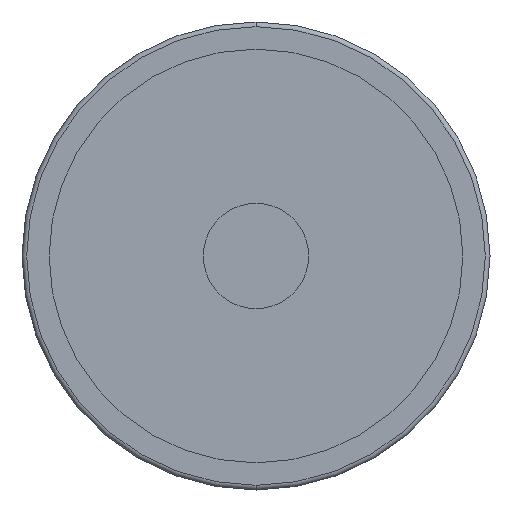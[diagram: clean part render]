
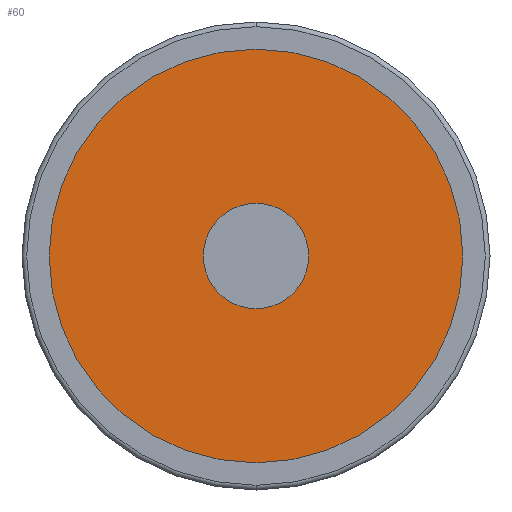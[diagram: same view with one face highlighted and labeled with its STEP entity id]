
A CAD part, front view. The second image highlights one B-rep face of the part: STEP entity #60.
In plain terms, the highlighted planar face has unit normal (0, -1, 0).
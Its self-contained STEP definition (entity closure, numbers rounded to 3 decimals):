
#44 = CIRCLE ( 'NONE', #573, 44.3 ) ;
#60 = ADVANCED_FACE ( 'NONE', ( #88, #1648 ), #1846, .T. ) ;
#88 = FACE_OUTER_BOUND ( 'NONE', #131, .T. ) ;
#118 = ORIENTED_EDGE ( 'NONE', *, *, #261, .F. ) ;
#131 = EDGE_LOOP ( 'NONE', ( #1121, #1259 ) ) ;
#244 = CARTESIAN_POINT ( 'NONE',  ( 0., 4.5, 0. ) ) ;
#249 = DIRECTION ( 'NONE',  ( 1., 0., 0. ) ) ;
#261 = EDGE_CURVE ( 'NONE', #2188, #1940, #412, .T. ) ;
#270 = DIRECTION ( 'NONE',  ( 1., 0., 0. ) ) ;
#346 = AXIS2_PLACEMENT_3D ( 'NONE', #1922, #1333, #547 ) ;
#412 = CIRCLE ( 'NONE', #691, 10.25 ) ;
#421 = ORIENTED_EDGE ( 'NONE', *, *, #2270, .F. ) ;
#465 = CIRCLE ( 'NONE', #346, 44.3 ) ;
#547 = DIRECTION ( 'NONE',  ( 1., 0., 0. ) ) ;
#573 = AXIS2_PLACEMENT_3D ( 'NONE', #244, #1555, #1190 ) ;
#691 = AXIS2_PLACEMENT_3D ( 'NONE', #1881, #1491, #928 ) ;
#703 = CARTESIAN_POINT ( 'NONE',  ( 10.25, 4.5, 0. ) ) ;
#728 = CARTESIAN_POINT ( 'NONE',  ( 44.3, 4.5, 0. ) ) ;
#928 = DIRECTION ( 'NONE',  ( 1., 0., 0. ) ) ;
#1121 = ORIENTED_EDGE ( 'NONE', *, *, #1933, .T. ) ;
#1190 = DIRECTION ( 'NONE',  ( 1., 0., 0. ) ) ;
#1259 = ORIENTED_EDGE ( 'NONE', *, *, #1578, .T. ) ;
#1333 = DIRECTION ( 'NONE',  ( 0., -1., 0. ) ) ;
#1491 = DIRECTION ( 'NONE',  ( 0., -1., 0. ) ) ;
#1555 = DIRECTION ( 'NONE',  ( 0., -1., 0. ) ) ;
#1558 = CARTESIAN_POINT ( 'NONE',  ( -10.25, 4.5, 0. ) ) ;
#1578 = EDGE_CURVE ( 'NONE', #2301, #2075, #44, .T. ) ;
#1648 = FACE_BOUND ( 'NONE', #1782, .T. ) ;
#1778 = CARTESIAN_POINT ( 'NONE',  ( -44.3, 4.5, 0. ) ) ;
#1782 = EDGE_LOOP ( 'NONE', ( #118, #421 ) ) ;
#1846 = PLANE ( 'NONE',  #1863 ) ;
#1863 = AXIS2_PLACEMENT_3D ( 'NONE', #2024, #2174, #249 ) ;
#1881 = CARTESIAN_POINT ( 'NONE',  ( 0., 4.5, 0. ) ) ;
#1922 = CARTESIAN_POINT ( 'NONE',  ( 0., 4.5, 0. ) ) ;
#1933 = EDGE_CURVE ( 'NONE', #2075, #2301, #465, .T. ) ;
#1940 = VERTEX_POINT ( 'NONE', #1558 ) ;
#2024 = CARTESIAN_POINT ( 'NONE',  ( -44.3, 4.5, 0. ) ) ;
#2041 = CARTESIAN_POINT ( 'NONE',  ( 0., 4.5, 0. ) ) ;
#2075 = VERTEX_POINT ( 'NONE', #1778 ) ;
#2111 = AXIS2_PLACEMENT_3D ( 'NONE', #2041, #2394, #270 ) ;
#2174 = DIRECTION ( 'NONE',  ( 0., -1., 0. ) ) ;
#2188 = VERTEX_POINT ( 'NONE', #703 ) ;
#2270 = EDGE_CURVE ( 'NONE', #1940, #2188, #2304, .T. ) ;
#2301 = VERTEX_POINT ( 'NONE', #728 ) ;
#2304 = CIRCLE ( 'NONE', #2111, 10.25 ) ;
#2394 = DIRECTION ( 'NONE',  ( 0., -1., 0. ) ) ;
